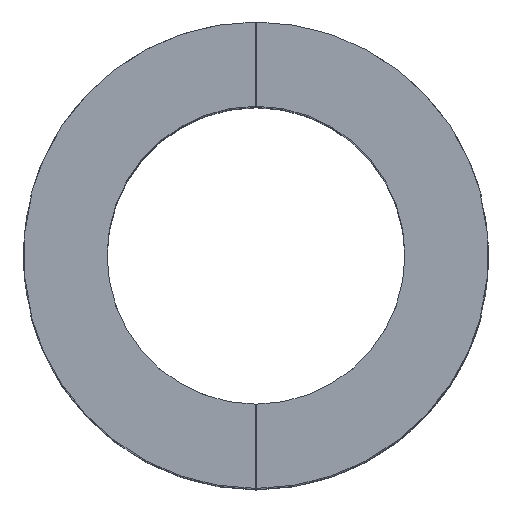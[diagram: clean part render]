
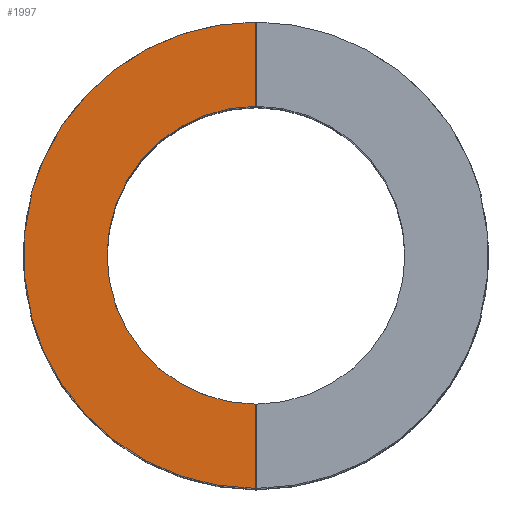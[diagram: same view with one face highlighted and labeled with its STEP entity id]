
A CAD part, top view. The second image highlights one B-rep face of the part: STEP entity #1997.
In plain terms, the highlighted planar face has unit normal (0, 0, 1).
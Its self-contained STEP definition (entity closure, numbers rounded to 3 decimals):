
#39=CIRCLE($,#2150,77.5);
#40=CIRCLE($,#2154,49.5);
#41=CIRCLE($,#2155,77.5);
#42=CIRCLE($,#2156,77.25);
#128=FACE_OUTER_BOUND($,#243,.T.);
#243=EDGE_LOOP($,(#1314,#1315,#1316,#1317,#1318,#1319,#1320,#1321));
#465=LINE($,#3063,#613);
#471=LINE($,#3079,#619);
#475=LINE($,#3111,#623);
#476=LINE($,#3114,#624);
#613=VECTOR($,#2432,28.);
#619=VECTOR($,#2444,28.);
#623=VECTOR($,#2466,0.259);
#624=VECTOR($,#2469,0.259);
#764=VERTEX_POINT($,#3059);
#766=VERTEX_POINT($,#3062);
#770=VERTEX_POINT($,#3071);
#773=VERTEX_POINT($,#3077);
#776=VERTEX_POINT($,#3092);
#779=VERTEX_POINT($,#3108);
#780=VERTEX_POINT($,#3110);
#781=VERTEX_POINT($,#3112);
#969=EDGE_CURVE($,#766,#764,#465,.T.);
#977=EDGE_CURVE($,#770,#773,#471,.T.);
#981=EDGE_CURVE($,#770,#776,#39,.T.);
#986=EDGE_CURVE($,#773,#766,#40,.T.);
#987=EDGE_CURVE($,#779,#764,#41,.T.);
#988=EDGE_CURVE($,#779,#780,#475,.T.);
#989=EDGE_CURVE($,#780,#781,#42,.T.);
#990=EDGE_CURVE($,#781,#776,#476,.T.);
#1314=ORIENTED_EDGE($,*,*,#977,.T.);
#1315=ORIENTED_EDGE($,*,*,#986,.T.);
#1316=ORIENTED_EDGE($,*,*,#969,.T.);
#1317=ORIENTED_EDGE($,*,*,#987,.F.);
#1318=ORIENTED_EDGE($,*,*,#988,.T.);
#1319=ORIENTED_EDGE($,*,*,#989,.T.);
#1320=ORIENTED_EDGE($,*,*,#990,.T.);
#1321=ORIENTED_EDGE($,*,*,#981,.F.);
#1806=PLANE($,#2153);
#1997=ADVANCED_FACE($,(#128),#1806,.F.);
#2150=AXIS2_PLACEMENT_3D($,#3093,#2452,#2453);
#2153=AXIS2_PLACEMENT_3D($,#3106,#2460,#2461);
#2154=AXIS2_PLACEMENT_3D($,#3107,#2462,#2463);
#2155=AXIS2_PLACEMENT_3D($,#3109,#2464,#2465);
#2156=AXIS2_PLACEMENT_3D($,#3113,#2467,#2468);
#2432=DIRECTION($,(0.,1.,0.));
#2444=DIRECTION($,(0.,1.,0.));
#2452=DIRECTION('center_axis',(0.,0.,-1.));
#2453=DIRECTION('ref_axis',(-1.,0.,0.));
#2460=DIRECTION('center_axis',(0.,0.,-1.));
#2461=DIRECTION('ref_axis',(-1.,0.,0.));
#2462=DIRECTION('center_axis',(0.,0.,-1.));
#2463=DIRECTION('ref_axis',(-1.,0.,0.));
#2464=DIRECTION('center_axis',(0.,0.,-1.));
#2465=DIRECTION('ref_axis',(-1.,0.,0.));
#2466=DIRECTION($,(1.,0.,0.));
#2467=DIRECTION('center_axis',(0.,0.,1.));
#2468=DIRECTION('ref_axis',(0.966,-0.259,0.));
#2469=DIRECTION($,(-1.,0.,0.));
#3059=CARTESIAN_POINT('',(-0.25,77.5,150.));
#3062=CARTESIAN_POINT('',(-0.25,49.499,150.));
#3063=CARTESIAN_POINT($,(-0.25,0.,150.));
#3071=CARTESIAN_POINT('',(-0.25,-77.5,150.));
#3077=CARTESIAN_POINT('',(-0.25,-49.499,150.));
#3079=CARTESIAN_POINT($,(-0.25,0.,150.));
#3092=CARTESIAN_POINT('',(-74.875,-20.,150.));
#3093=CARTESIAN_POINT('Origin',(0.,0.,150.));
#3106=CARTESIAN_POINT('Origin',(0.,0.,150.));
#3107=CARTESIAN_POINT('Origin',(0.,0.,150.));
#3108=CARTESIAN_POINT('',(-74.875,20.,150.));
#3109=CARTESIAN_POINT('Origin',(0.,0.,150.));
#3110=CARTESIAN_POINT('',(-74.616,20.,150.));
#3111=CARTESIAN_POINT($,(-37.955,20.,150.));
#3112=CARTESIAN_POINT('',(-74.616,-20.,150.));
#3113=CARTESIAN_POINT('Origin',(0.,0.,150.));
#3114=CARTESIAN_POINT($,(-37.308,-20.,150.));
